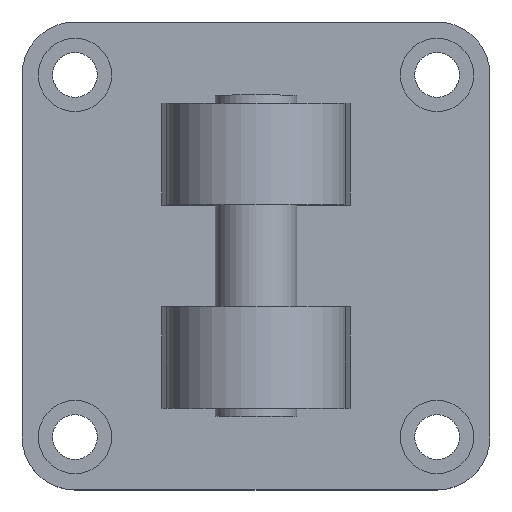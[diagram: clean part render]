
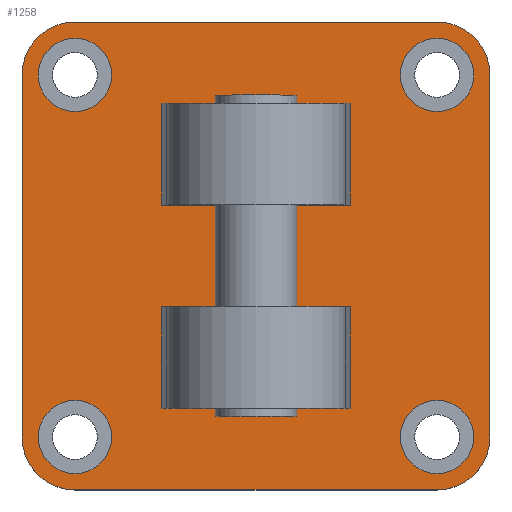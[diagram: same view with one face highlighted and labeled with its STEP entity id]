
A CAD part, top view. The second image highlights one B-rep face of the part: STEP entity #1258.
In plain terms, the highlighted planar face has unit normal (0, 0, 1).
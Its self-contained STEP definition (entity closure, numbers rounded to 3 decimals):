
#151=CARTESIAN_POINT('',(57.5,-44.5,16.0));
#152=VERTEX_POINT('',#151);
#153=CARTESIAN_POINT('',(44.5,-57.5,16.0));
#154=VERTEX_POINT('',#153);
#155=CARTESIAN_POINT('',(44.5,-44.5,16.0));
#156=DIRECTION('',(0.0,0.0,-1.0));
#157=DIRECTION('',(0.707,-0.707,0.0));
#158=AXIS2_PLACEMENT_3D('',#155,#156,#157);
#159=CIRCLE('',#158,13.);
#160=EDGE_CURVE('',#152,#154,#159,.T.);
#202=CARTESIAN_POINT('',(57.5,44.5,16.0));
#203=VERTEX_POINT('',#202);
#210=CARTESIAN_POINT('',(57.5,44.5,16.0));
#211=DIRECTION('',(0.0,-1.0,0.0));
#212=VECTOR('',#211,89.0);
#213=LINE('',#210,#212);
#214=EDGE_CURVE('',#203,#152,#213,.T.);
#338=CARTESIAN_POINT('',(-57.5,44.5,16.0));
#339=VERTEX_POINT('',#338);
#340=CARTESIAN_POINT('',(-44.5,57.5,16.0));
#341=VERTEX_POINT('',#340);
#342=CARTESIAN_POINT('',(-44.5,44.5,16.0));
#343=DIRECTION('',(0.0,0.0,-1.0));
#344=DIRECTION('',(-0.707,0.707,0.0));
#345=AXIS2_PLACEMENT_3D('',#342,#343,#344);
#346=CIRCLE('',#345,13.);
#347=EDGE_CURVE('',#339,#341,#346,.T.);
#371=CARTESIAN_POINT('',(44.5,57.5,16.0));
#372=VERTEX_POINT('',#371);
#373=CARTESIAN_POINT('',(-44.5,57.5,16.0));
#374=DIRECTION('',(1.0,0.0,0.0));
#375=VECTOR('',#374,89.0);
#376=LINE('',#373,#375);
#377=EDGE_CURVE('',#341,#372,#376,.T.);
#394=CARTESIAN_POINT('',(44.5,44.5,16.0));
#395=DIRECTION('',(0.0,0.0,-1.0));
#396=DIRECTION('',(0.707,0.707,0.0));
#397=AXIS2_PLACEMENT_3D('',#394,#395,#396);
#398=CIRCLE('',#397,13.);
#399=EDGE_CURVE('',#372,#203,#398,.T.);
#412=CARTESIAN_POINT('',(-44.5,-57.5,16.0));
#413=VERTEX_POINT('',#412);
#414=CARTESIAN_POINT('',(-57.5,-44.5,16.0));
#415=VERTEX_POINT('',#414);
#416=CARTESIAN_POINT('',(-44.5,-44.5,16.0));
#417=DIRECTION('',(0.0,0.0,-1.0));
#418=DIRECTION('',(-0.707,-0.707,0.0));
#419=AXIS2_PLACEMENT_3D('',#416,#417,#418);
#420=CIRCLE('',#419,13.);
#421=EDGE_CURVE('',#413,#415,#420,.T.);
#447=CARTESIAN_POINT('',(-57.5,-44.5,16.0));
#448=DIRECTION('',(0.0,1.0,0.0));
#449=VECTOR('',#448,89.0);
#450=LINE('',#447,#449);
#451=EDGE_CURVE('',#415,#339,#450,.T.);
#510=CARTESIAN_POINT('',(53.5,44.5,16.0));
#511=VERTEX_POINT('',#510);
#512=CARTESIAN_POINT('',(44.5,44.5,16.0));
#513=DIRECTION('',(0.0,0.0,-1.0));
#514=DIRECTION('',(1.0,0.0,0.0));
#515=AXIS2_PLACEMENT_3D('',#512,#513,#514);
#516=CIRCLE('',#515,9.0);
#517=EDGE_CURVE('',#511,#511,#516,.T.);
#612=CARTESIAN_POINT('',(-35.5,-44.5,16.0));
#613=VERTEX_POINT('',#612);
#614=CARTESIAN_POINT('',(-44.5,-44.5,16.0));
#615=DIRECTION('',(0.0,0.0,-1.0));
#616=DIRECTION('',(1.0,0.0,0.0));
#617=AXIS2_PLACEMENT_3D('',#614,#615,#616);
#618=CIRCLE('',#617,9.0);
#619=EDGE_CURVE('',#613,#613,#618,.T.);
#714=CARTESIAN_POINT('',(-35.5,44.5,16.0));
#715=VERTEX_POINT('',#714);
#716=CARTESIAN_POINT('',(-44.5,44.5,16.0));
#717=DIRECTION('',(0.0,0.0,-1.0));
#718=DIRECTION('',(1.0,0.0,0.0));
#719=AXIS2_PLACEMENT_3D('',#716,#717,#718);
#720=CIRCLE('',#719,9.0);
#721=EDGE_CURVE('',#715,#715,#720,.T.);
#816=CARTESIAN_POINT('',(53.5,-44.5,16.0));
#817=VERTEX_POINT('',#816);
#818=CARTESIAN_POINT('',(44.5,-44.5,16.0));
#819=DIRECTION('',(0.0,0.0,-1.0));
#820=DIRECTION('',(1.0,0.0,0.0));
#821=AXIS2_PLACEMENT_3D('',#818,#819,#820);
#822=CIRCLE('',#821,9.0);
#823=EDGE_CURVE('',#817,#817,#822,.T.);
#919=CARTESIAN_POINT('',(23.112,-12.5,16.0));
#920=VERTEX_POINT('',#919);
#929=CARTESIAN_POINT('',(-23.112,-12.5,16.0));
#930=VERTEX_POINT('',#929);
#931=CARTESIAN_POINT('',(23.112,-12.5,16.0));
#932=DIRECTION('',(-1.0,0.0,0.0));
#933=VECTOR('',#932,46.225);
#934=LINE('',#931,#933);
#935=EDGE_CURVE('',#920,#930,#934,.T.);
#965=CARTESIAN_POINT('',(23.112,12.5,16.0));
#966=VERTEX_POINT('',#965);
#982=CARTESIAN_POINT('',(-23.112,12.5,16.0));
#983=VERTEX_POINT('',#982);
#990=CARTESIAN_POINT('',(23.112,12.5,16.0));
#991=DIRECTION('',(-1.0,0.0,0.0));
#992=VECTOR('',#991,46.225);
#993=LINE('',#990,#992);
#994=EDGE_CURVE('',#966,#983,#993,.T.);
#1016=CARTESIAN_POINT('',(23.112,-37.5,16.0));
#1017=VERTEX_POINT('',#1016);
#1024=CARTESIAN_POINT('',(23.112,-12.5,16.0));
#1025=DIRECTION('',(0.0,-1.0,0.0));
#1026=VECTOR('',#1025,25.0);
#1027=LINE('',#1024,#1026);
#1028=EDGE_CURVE('',#920,#1017,#1027,.T.);
#1064=CARTESIAN_POINT('',(-23.112,-37.5,16.0));
#1065=VERTEX_POINT('',#1064);
#1066=CARTESIAN_POINT('',(-23.112,-37.5,16.0));
#1067=DIRECTION('',(0.0,1.0,0.0));
#1068=VECTOR('',#1067,25.0);
#1069=LINE('',#1066,#1068);
#1070=EDGE_CURVE('',#1065,#930,#1069,.T.);
#1089=CARTESIAN_POINT('',(23.112,-37.5,16.0));
#1090=DIRECTION('',(-1.0,0.0,0.0));
#1091=VECTOR('',#1090,46.225);
#1092=LINE('',#1089,#1091);
#1093=EDGE_CURVE('',#1017,#1065,#1092,.T.);
#1108=CARTESIAN_POINT('',(23.112,37.5,16.0));
#1109=VERTEX_POINT('',#1108);
#1110=CARTESIAN_POINT('',(23.112,37.5,16.0));
#1111=DIRECTION('',(0.0,-1.0,0.0));
#1112=VECTOR('',#1111,25.0);
#1113=LINE('',#1110,#1112);
#1114=EDGE_CURVE('',#1109,#966,#1113,.T.);
#1165=CARTESIAN_POINT('',(-23.112,37.5,16.0));
#1166=VERTEX_POINT('',#1165);
#1173=CARTESIAN_POINT('',(-23.112,12.5,16.0));
#1174=DIRECTION('',(0.0,1.0,0.0));
#1175=VECTOR('',#1174,25.0);
#1176=LINE('',#1173,#1175);
#1177=EDGE_CURVE('',#983,#1166,#1176,.T.);
#1187=CARTESIAN_POINT('',(-23.112,37.5,16.0));
#1188=DIRECTION('',(1.0,0.0,0.0));
#1189=VECTOR('',#1188,46.225);
#1190=LINE('',#1187,#1189);
#1191=EDGE_CURVE('',#1166,#1109,#1190,.T.);
#1208=CARTESIAN_POINT('',(44.5,-57.5,16.0));
#1209=DIRECTION('',(-1.0,0.0,0.0));
#1210=VECTOR('',#1209,89.0);
#1211=LINE('',#1208,#1210);
#1212=EDGE_CURVE('',#154,#413,#1211,.T.);
#1219=CARTESIAN_POINT('',(0.0,0.,16.0));
#1220=DIRECTION('',(0.0,0.0,1.0));
#1221=DIRECTION('',(1.0,0.0,0.0));
#1222=AXIS2_PLACEMENT_3D('',#1219,#1220,#1221);
#1223=PLANE('',#1222);
#1224=ORIENTED_EDGE('',*,*,#160,.F.);
#1225=ORIENTED_EDGE('',*,*,#214,.F.);
#1226=ORIENTED_EDGE('',*,*,#399,.F.);
#1227=ORIENTED_EDGE('',*,*,#377,.F.);
#1228=ORIENTED_EDGE('',*,*,#347,.F.);
#1229=ORIENTED_EDGE('',*,*,#451,.F.);
#1230=ORIENTED_EDGE('',*,*,#421,.F.);
#1231=ORIENTED_EDGE('',*,*,#1212,.F.);
#1232=EDGE_LOOP('',(#1224,#1225,#1226,#1227,#1228,#1229,#1230,#1231));
#1233=FACE_OUTER_BOUND('',#1232,.T.);
#1234=ORIENTED_EDGE('',*,*,#517,.T.);
#1235=EDGE_LOOP('',(#1234));
#1236=FACE_BOUND('',#1235,.T.);
#1237=ORIENTED_EDGE('',*,*,#619,.T.);
#1238=EDGE_LOOP('',(#1237));
#1239=FACE_BOUND('',#1238,.T.);
#1240=ORIENTED_EDGE('',*,*,#721,.T.);
#1241=EDGE_LOOP('',(#1240));
#1242=FACE_BOUND('',#1241,.T.);
#1243=ORIENTED_EDGE('',*,*,#823,.T.);
#1244=EDGE_LOOP('',(#1243));
#1245=FACE_BOUND('',#1244,.T.);
#1246=ORIENTED_EDGE('',*,*,#1028,.T.);
#1247=ORIENTED_EDGE('',*,*,#1093,.T.);
#1248=ORIENTED_EDGE('',*,*,#1070,.T.);
#1249=ORIENTED_EDGE('',*,*,#935,.F.);
#1250=EDGE_LOOP('',(#1246,#1247,#1248,#1249));
#1251=FACE_BOUND('',#1250,.T.);
#1252=ORIENTED_EDGE('',*,*,#994,.T.);
#1253=ORIENTED_EDGE('',*,*,#1177,.T.);
#1254=ORIENTED_EDGE('',*,*,#1191,.T.);
#1255=ORIENTED_EDGE('',*,*,#1114,.T.);
#1256=EDGE_LOOP('',(#1252,#1253,#1254,#1255));
#1257=FACE_BOUND('',#1256,.T.);
#1258=ADVANCED_FACE('',(#1233,#1236,#1239,#1242,#1245,#1251,#1257),#1223,.T.);
